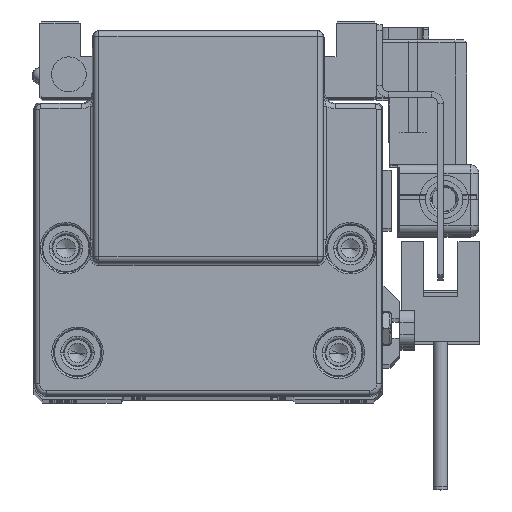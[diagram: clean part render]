
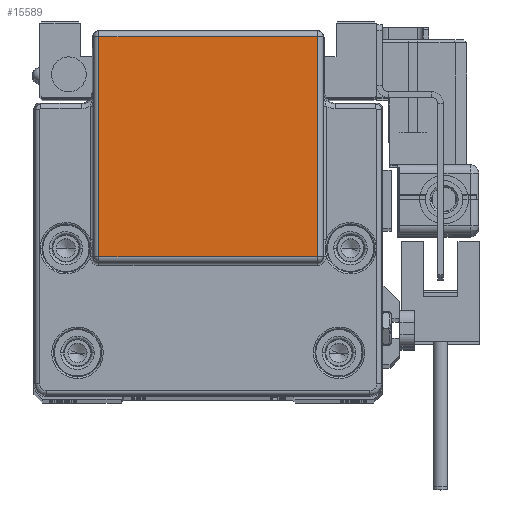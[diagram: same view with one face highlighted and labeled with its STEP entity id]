
A CAD part, top view. The second image highlights one B-rep face of the part: STEP entity #15589.
In plain terms, the highlighted planar face has unit normal (0, 0, 1) as drawn and (0, 0, -1) by its records, which use the part's own axes.
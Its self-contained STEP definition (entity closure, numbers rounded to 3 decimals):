
#785 = PLANE ( 'NONE',  #2193 ) ;
#975 = CARTESIAN_POINT ( 'NONE',  ( 18.808, 24.5, -143. ) ) ;
#1523 = EDGE_CURVE ( 'NONE', #32967, #2744, #62441, .T. ) ;
#2193 = AXIS2_PLACEMENT_3D ( 'NONE', #58105, #11642, #7497 ) ;
#2540 = ORIENTED_EDGE ( 'NONE', *, *, #39551, .F. ) ;
#2744 = VERTEX_POINT ( 'NONE', #72437 ) ;
#3705 = LINE ( 'NONE', #13820, #23886 ) ;
#5870 = ORIENTED_EDGE ( 'NONE', *, *, #53769, .F. ) ;
#6608 = LINE ( 'NONE', #975, #32488 ) ;
#7497 = DIRECTION ( 'NONE',  ( 0., 1., 0. ) ) ;
#11642 = DIRECTION ( 'NONE',  ( 0., 0., -1. ) ) ;
#13097 = FACE_OUTER_BOUND ( 'NONE', #55236, .T. ) ;
#13622 = CARTESIAN_POINT ( 'NONE',  ( -18.808, 31., -143. ) ) ;
#13820 = CARTESIAN_POINT ( 'NONE',  ( 19., 24.518, -143. ) ) ;
#15589 = ADVANCED_FACE ( 'NONE', ( #13097 ), #785, .T. ) ;
#20836 = VECTOR ( 'NONE', #39576, 1000. ) ;
#23886 = VECTOR ( 'NONE', #31819, 1000. ) ;
#28895 = VECTOR ( 'NONE', #72091, 1000. ) ;
#31624 = LINE ( 'NONE', #13622, #28895 ) ;
#31819 = DIRECTION ( 'NONE',  ( 1., 0., 0. ) ) ;
#32488 = VECTOR ( 'NONE', #52666, 1000. ) ;
#32812 = CARTESIAN_POINT ( 'NONE',  ( -18.808, 62.447, -143. ) ) ;
#32967 = VERTEX_POINT ( 'NONE', #32812 ) ;
#39551 = EDGE_CURVE ( 'NONE', #65655, #2744, #6608, .T. ) ;
#39576 = DIRECTION ( 'NONE',  ( 1., 0., 0. ) ) ;
#46311 = EDGE_CURVE ( 'NONE', #47217, #65655, #3705, .T. ) ;
#47217 = VERTEX_POINT ( 'NONE', #65654 ) ;
#49561 = CARTESIAN_POINT ( 'NONE',  ( 18.808, 24.518, -143. ) ) ;
#52666 = DIRECTION ( 'NONE',  ( 0., 1., 0. ) ) ;
#53769 = EDGE_CURVE ( 'NONE', #32967, #47217, #31624, .T. ) ;
#55236 = EDGE_LOOP ( 'NONE', ( #2540, #68653, #5870, #58619 ) ) ;
#58105 = CARTESIAN_POINT ( 'NONE',  ( 19., 24.5, -143. ) ) ;
#58619 = ORIENTED_EDGE ( 'NONE', *, *, #1523, .T. ) ;
#62441 = LINE ( 'NONE', #63182, #20836 ) ;
#63182 = CARTESIAN_POINT ( 'NONE',  ( 19., 62.447, -143. ) ) ;
#65654 = CARTESIAN_POINT ( 'NONE',  ( -18.808, 24.518, -143. ) ) ;
#65655 = VERTEX_POINT ( 'NONE', #49561 ) ;
#68653 = ORIENTED_EDGE ( 'NONE', *, *, #46311, .F. ) ;
#72091 = DIRECTION ( 'NONE',  ( 0., -1., 0. ) ) ;
#72437 = CARTESIAN_POINT ( 'NONE',  ( 18.808, 62.447, -143. ) ) ;
